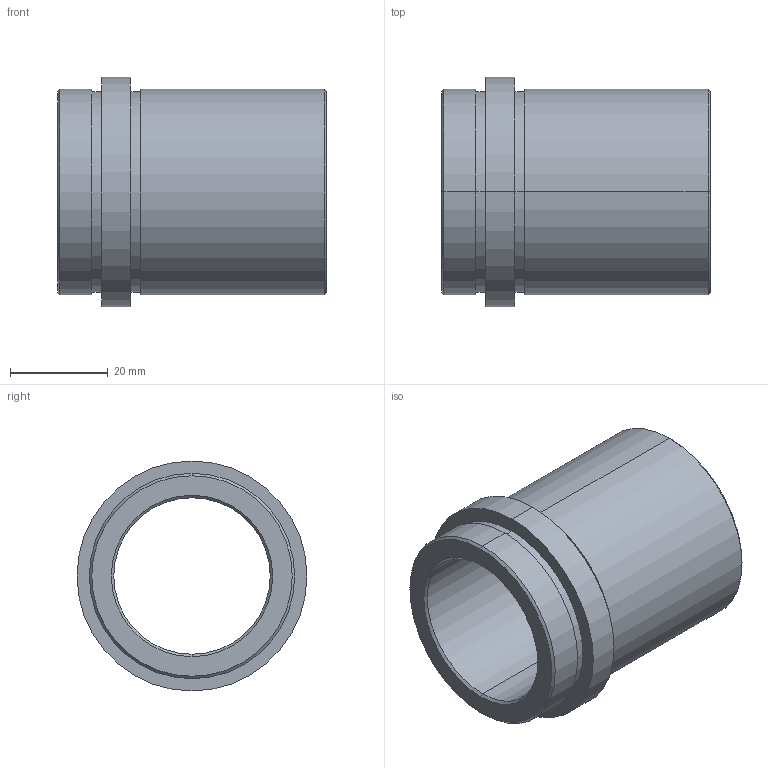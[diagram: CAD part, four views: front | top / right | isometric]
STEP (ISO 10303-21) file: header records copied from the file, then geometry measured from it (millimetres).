
FILE_DESCRIPTION( ( 'STEP AP203' ), '1' );
FILE_NAME( 'C:/Projects/D21 - 32x46.step', '2002-12-31T22:55:01', ( ' ' ), ( ' ' ), 'XStep 1.0', ' ', ' ' );
FILE_SCHEMA( ( 'CONFIG_CONTROL_DESIGN' ) );
Length unit declared in the file: metre
Products named in the file (1): 1
Bounding box: 55 x 47 x 47 mm (x, y, z)
Volume: 33743.8 mm3; surface area: 14853.9 mm2
Topology: 1 solids, 1 shells, 26 faces, 52 edges, 32 vertices
Faces by surface type: revolution 20, bspline 6
Entity records: 773 total; most frequent: CARTESIAN_POINT 169, DIRECTION 106, ORIENTED_EDGE 104, EDGE_CURVE 52, AXIS2_PLACEMENT_3D 33, EDGE_LOOP 32, VERTEX_POINT 32, CIRCLE 32
